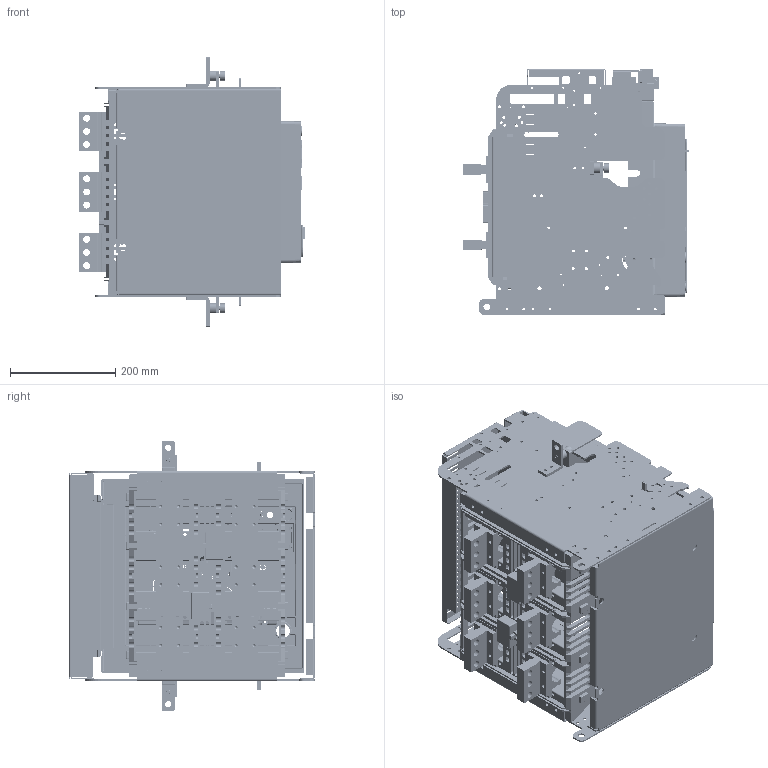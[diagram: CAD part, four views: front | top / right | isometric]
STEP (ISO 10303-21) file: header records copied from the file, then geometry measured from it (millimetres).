
FILE_DESCRIPTION((''),'2;1');
FILE_NAME('HG_07_B203_253H_ASM_ASM','2019-03-27T',('HHI'),(''),'PRO/ENGINEER BY PARAMETRIC TECHNOLOGY CORPORATION, 2012453','PRO/ENGINEER BY PARAMETRIC TECHNOLOGY CORPORATION, 2012453','');
FILE_SCHEMA(('CONFIG_CONTROL_DESIGN'));
Products named in the file (40): PRT0001; PRT0002; ASM0001_ASM; MAIN_SC_DR_BASE_403_15; MANIFOLD_SOLID_BREP_25687; MANIFOLD_SOLID_BREP_25907; ASM0002_ASM; SC_CO_JACK_DFC_403_17; PRT0003; SC-MAIN-TERMINAL-MOLD-403_10; ISOLATING_CONDUCTOR_20_25HV_L75; TERMINAL_B20_B25_9; PRT0004; PRT0005; PRT0006; PRT0007; PRT0008; ASM0003_ASM; PRT0009; PRT0010; PRT0011; ASM0004_ASM; PRT0012; COVER403_ASSY_ASM_18_ASM; U_ARC_SHIELD_403_1; PRT0013; PRT0014; PRT0015; PRT0016; ASM0005_ASM; PRT0017; PRT0018; FIX_BLOCK_CRADLE_6; BOLT_5; ASM0006_ASM; B203_253H_ASM_14_ASM; HG_FRONT_COVER_40; 4AT-06477S03; 4AT-06477S04; HG_07_B203_253H_ASM_ASM
Assembly tree (49 placements, depth 5):
  HG_07_B203_253H_ASM_ASM
    B203_253H_ASM_14_ASM
      ASM0001_ASM
        PRT0001
        PRT0002
      MAIN_SC_DR_BASE_403_15
      ASM0002_ASM
        MANIFOLD_SOLID_BREP_25687
        MANIFOLD_SOLID_BREP_25907
      SC_CO_JACK_DFC_403_17
      PRT0003
      SC-MAIN-TERMINAL-MOLD-403_10
      ISOLATING_CONDUCTOR_20_25HV_L75  x6
      TERMINAL_B20_B25_9  x6
      COVER403_ASSY_ASM_18_ASM
        PRT0004
        ASM0003_ASM
          PRT0005
          PRT0006
          PRT0007
          PRT0008
        ASM0004_ASM
          PRT0009
          PRT0010
          PRT0011
        PRT0012
      U_ARC_SHIELD_403_1
      ASM0005_ASM
        PRT0013
        PRT0014
        PRT0015
        PRT0016
      ASM0006_ASM
        PRT0017
        PRT0018
        FIX_BLOCK_CRADLE_6
        BOLT_5
    HG_FRONT_COVER_40
    4AT-06477S03
    4AT-06477S04
Bounding box: 430.03 x 466.35 x 511 mm (x, y, z)
Volume: 5692649.7 mm3; surface area: 3369768 mm2
Topology: 41 solids, 41 shells, 14552 faces, 42663 edges, 27814 vertices
Faces by surface type: plane 10723, cylinder 3119, torus 235, extrusion 141, sphere 137, cone 116, bspline 81
Entity records: 468547 total; most frequent: CARTESIAN_POINT 89551, ORIENTED_EDGE 81998, DIRECTION 74239, EDGE_CURVE 40999, VECTOR 34311, LINE 34170, VERTEX_POINT 26734, AXIS2_PLACEMENT_3D 19964
